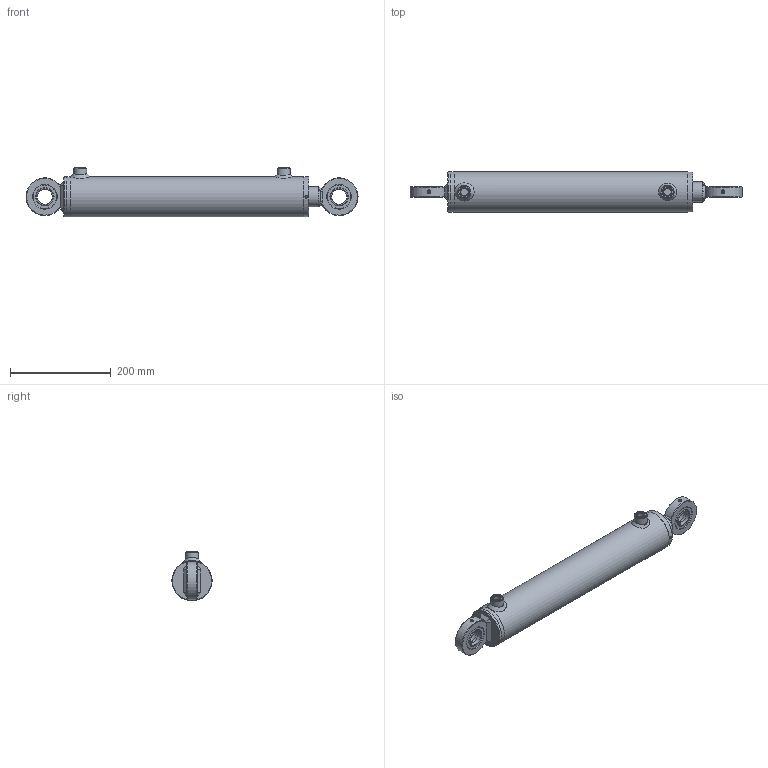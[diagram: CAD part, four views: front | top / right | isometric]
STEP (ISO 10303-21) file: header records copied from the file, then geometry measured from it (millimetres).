
FILE_DESCRIPTION( ( 'Unknown' ), '1' );
FILE_NAME( 'E:/LIBRERIA_3d/CILINDRI/HMC/HMC4400350.stp', 'Unknown', ( 'Unknown' ), ( 'Unknown' ), 'PSStep 17.0.49', 'Unknown', ' ' );
FILE_SCHEMA( ( 'AUTOMOTIVE_DESIGN { 1 0 10303 214 1 1 1 1 }' ) );
Length unit declared in the file: millimetre
Products named in the file (27): CG08007040; CT00070027; STL4500350-oa6; Saldatura d'angolo 1-oa4; FTM4500350-oa5; CBSC220600; CAGEG07504730; CAGE075047; CGE0300000; HM04400350; Saldatura con preparazione 1-oa2; Saldatura d'angolo 1-oa3; CF00070080; CBS0600000; CDB0002720; APG0600000; SBL4040350; Assem1; Saldatura d'angolo 1-oa0; Saldatura d'angolo 2-oa1
Assembly tree (20 placements, depth 4):
  Saldatura d'angolo 1-oa4
  Saldatura d'angolo 1-oa4
  Saldatura d'angolo 1-oa3
  Saldatura d'angolo 1-oa3
  Assem1
    CAGEG07504730  x2
      CAGE075047
      CGE0300000
    HM04400350
      Saldatura con preparazione 1-oa2
      Saldatura con preparazione 1-oa2
      CF00070080
      CBS0600000
      CDB0002720
      APG0600000  x2
      SBL4040350
      CG08007040
        CG08007040
      CT00070027
        CT00070027
      STL4500350-oa6
        FTM4500350-oa5
        CBSC220600
Bounding box: 660 x 80 x 99 mm (x, y, z)
Volume: 1606001.2 mm3; surface area: 429692.4 mm2
Topology: 24 solids, 24 shells, 358 faces, 762 edges, 463 vertices
Faces by surface type: plane 108, bspline 88, cylinder 79, cone 42, torus 37, sphere 4
Full cylindrical faces by diameter (mm): 2.5 x4, 4.25 x1, 5 x4, 6 x2, 7 x2, 14.95 x2, 16 x2, 16.6 x2, 22 x2, 26 x2, 26.4 x1, 27 x5, 30 x4, 33.2 x1, 40 x4, 41 x1, 42 x1, 43 x1, 45 x2, 47 x6, 48.6 x1, 50 x2, 64.18 x2, 65 x1, 68.34 x2, 69.9 x1, 70 x1, 70.3 x1, 70.5 x1, 70.6 x1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
Entity records: 17645 total; most frequent: CARTESIAN_POINT 9540, DIRECTION 988, ORIENTED_EDGE 942, EDGE_LOOP 520, EDGE_CURVE 471, AXIS2_PLACEMENT_3D 450, FACE_OUTER_BOUND 427, VERTEX_POINT 356
